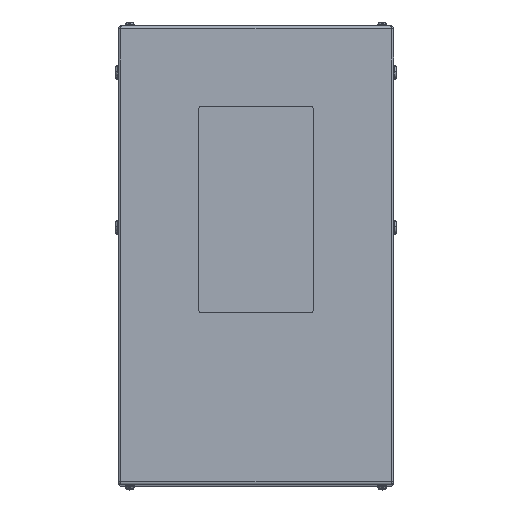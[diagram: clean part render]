
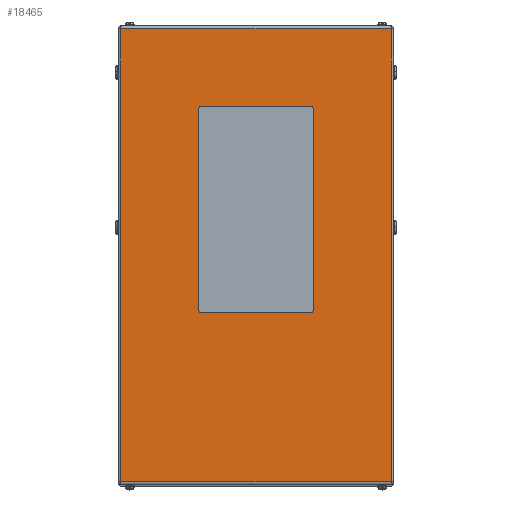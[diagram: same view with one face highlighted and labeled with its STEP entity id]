
A CAD part, top view. The second image highlights one B-rep face of the part: STEP entity #18465.
In plain terms, the highlighted planar face has unit normal (0, 0, 1).
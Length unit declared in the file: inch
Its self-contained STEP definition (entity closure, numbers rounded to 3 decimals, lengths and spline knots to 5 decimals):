
#48 = CARTESIAN_POINT ( 'NONE',  ( -4.75, 13., 30. ) ) ;
#343 = VECTOR ( 'NONE', #4926, 39.37008 ) ;
#572 = EDGE_CURVE ( 'NONE', #8508, #21209, #21410, .T. ) ;
#1418 = CARTESIAN_POINT ( 'NONE',  ( 4.75, 12.75, 30. ) ) ;
#1467 = ORIENTED_EDGE ( 'NONE', *, *, #6835, .F. ) ;
#1670 = LINE ( 'NONE', #7175, #15399 ) ;
#1812 = CARTESIAN_POINT ( 'NONE',  ( 11.8, 19.734, 30. ) ) ;
#1983 = CARTESIAN_POINT ( 'NONE',  ( 12., 19.734, 30. ) ) ;
#2105 = CARTESIAN_POINT ( 'NONE',  ( 5., 12.75, 30. ) ) ;
#2265 = DIRECTION ( 'NONE',  ( 0., 1., 0. ) ) ;
#2299 = LINE ( 'NONE', #22709, #23376 ) ;
#2385 = VERTEX_POINT ( 'NONE', #19564 ) ;
#2455 = VERTEX_POINT ( 'NONE', #21528 ) ;
#2592 = EDGE_CURVE ( 'NONE', #21968, #20963, #13183, .T. ) ;
#2740 = AXIS2_PLACEMENT_3D ( 'NONE', #1418, #5192, #14841 ) ;
#3356 = CARTESIAN_POINT ( 'NONE',  ( -11.8, 19.734, 30. ) ) ;
#3422 = CARTESIAN_POINT ( 'NONE',  ( -4.75, -5., 30. ) ) ;
#3722 = DIRECTION ( 'NONE',  ( 0., -1., 0. ) ) ;
#3750 = FACE_BOUND ( 'NONE', #3850, .T. ) ;
#3850 = EDGE_LOOP ( 'NONE', ( #15669, #12745, #6420, #20998, #10895, #1467, #18816, #11453 ) ) ;
#4032 = ORIENTED_EDGE ( 'NONE', *, *, #11173, .T. ) ;
#4111 = DIRECTION ( 'NONE',  ( 0., 0., -1. ) ) ;
#4356 = VECTOR ( 'NONE', #2265, 39.37008 ) ;
#4509 = AXIS2_PLACEMENT_3D ( 'NONE', #9292, #12956, #16996 ) ;
#4541 = EDGE_CURVE ( 'NONE', #5840, #11500, #5578, .T. ) ;
#4926 = DIRECTION ( 'NONE',  ( 0., 1., 0. ) ) ;
#5028 = DIRECTION ( 'NONE',  ( 0., 0., 1. ) ) ;
#5192 = DIRECTION ( 'NONE',  ( 0., 0., 1. ) ) ;
#5393 = EDGE_CURVE ( 'NONE', #2455, #6618, #2299, .T. ) ;
#5451 = CARTESIAN_POINT ( 'NONE',  ( -5., 12.75, 30. ) ) ;
#5578 = LINE ( 'NONE', #15325, #4356 ) ;
#5720 = FACE_OUTER_BOUND ( 'NONE', #15222, .T. ) ;
#5783 = CARTESIAN_POINT ( 'NONE',  ( -4.75, 12.75, 30. ) ) ;
#5840 = VERTEX_POINT ( 'NONE', #14463 ) ;
#5986 = DIRECTION ( 'NONE',  ( -1., 0., 0. ) ) ;
#6420 = ORIENTED_EDGE ( 'NONE', *, *, #10911, .F. ) ;
#6618 = VERTEX_POINT ( 'NONE', #48 ) ;
#6787 = CARTESIAN_POINT ( 'NONE',  ( -4.75, -4.75, 30. ) ) ;
#6835 = EDGE_CURVE ( 'NONE', #11500, #2455, #16017, .T. ) ;
#7057 = CARTESIAN_POINT ( 'NONE',  ( 11.8, 20., 30. ) ) ;
#7086 = EDGE_CURVE ( 'NONE', #12247, #22090, #10630, .T. ) ;
#7175 = CARTESIAN_POINT ( 'NONE',  ( -11.8, 20., 30. ) ) ;
#7296 = AXIS2_PLACEMENT_3D ( 'NONE', #11442, #4111, #15360 ) ;
#7729 = VECTOR ( 'NONE', #3722, 39.37008 ) ;
#8508 = VERTEX_POINT ( 'NONE', #19081 ) ;
#8628 = ORIENTED_EDGE ( 'NONE', *, *, #19339, .T. ) ;
#9091 = VERTEX_POINT ( 'NONE', #14126 ) ;
#9292 = CARTESIAN_POINT ( 'NONE',  ( 4.75, -4.75, 30. ) ) ;
#9358 = EDGE_CURVE ( 'NONE', #21209, #9091, #22120, .T. ) ;
#9601 = ORIENTED_EDGE ( 'NONE', *, *, #2592, .T. ) ;
#9853 = CARTESIAN_POINT ( 'NONE',  ( 11.8, -19.734, 30. ) ) ;
#10630 = LINE ( 'NONE', #14805, #12119 ) ;
#10826 = DIRECTION ( 'NONE',  ( 1., 0., 0. ) ) ;
#10895 = ORIENTED_EDGE ( 'NONE', *, *, #5393, .F. ) ;
#10911 = EDGE_CURVE ( 'NONE', #2385, #8508, #20574, .T. ) ;
#11173 = EDGE_CURVE ( 'NONE', #20963, #12247, #1670, .T. ) ;
#11442 = CARTESIAN_POINT ( 'NONE',  ( 12., 20., 30. ) ) ;
#11453 = ORIENTED_EDGE ( 'NONE', *, *, #18130, .F. ) ;
#11500 = VERTEX_POINT ( 'NONE', #2105 ) ;
#11698 = VECTOR ( 'NONE', #10826, 39.37008 ) ;
#11987 = DIRECTION ( 'NONE',  ( 1., 0., 0. ) ) ;
#12119 = VECTOR ( 'NONE', #22277, 39.37008 ) ;
#12247 = VERTEX_POINT ( 'NONE', #15919 ) ;
#12745 = ORIENTED_EDGE ( 'NONE', *, *, #572, .F. ) ;
#12956 = DIRECTION ( 'NONE',  ( 0., 0., 1. ) ) ;
#13154 = PLANE ( 'NONE',  #7296 ) ;
#13183 = LINE ( 'NONE', #1983, #17654 ) ;
#13491 = CIRCLE ( 'NONE', #4509, 0.25 ) ;
#14126 = CARTESIAN_POINT ( 'NONE',  ( 4.75, -5., 30. ) ) ;
#14463 = CARTESIAN_POINT ( 'NONE',  ( 5., -4.75, 30. ) ) ;
#14606 = EDGE_CURVE ( 'NONE', #6618, #2385, #21009, .T. ) ;
#14805 = CARTESIAN_POINT ( 'NONE',  ( 11.8, -19.734, 30. ) ) ;
#14841 = DIRECTION ( 'NONE',  ( -1., 0., 0. ) ) ;
#15222 = EDGE_LOOP ( 'NONE', ( #4032, #17283, #8628, #9601 ) ) ;
#15325 = CARTESIAN_POINT ( 'NONE',  ( 5., 12.75, 30. ) ) ;
#15360 = DIRECTION ( 'NONE',  ( -1., 0., 0. ) ) ;
#15399 = VECTOR ( 'NONE', #24077, 39.37008 ) ;
#15669 = ORIENTED_EDGE ( 'NONE', *, *, #9358, .F. ) ;
#15919 = CARTESIAN_POINT ( 'NONE',  ( -11.8, -19.734, 30. ) ) ;
#15972 = AXIS2_PLACEMENT_3D ( 'NONE', #5783, #17021, #21037 ) ;
#16017 = CIRCLE ( 'NONE', #2740, 0.25 ) ;
#16298 = LINE ( 'NONE', #7057, #343 ) ;
#16996 = DIRECTION ( 'NONE',  ( 1., 0., 0. ) ) ;
#17021 = DIRECTION ( 'NONE',  ( 0., 0., 1. ) ) ;
#17112 = DIRECTION ( 'NONE',  ( -1., 0., 0. ) ) ;
#17283 = ORIENTED_EDGE ( 'NONE', *, *, #7086, .T. ) ;
#17654 = VECTOR ( 'NONE', #17112, 39.37008 ) ;
#18130 = EDGE_CURVE ( 'NONE', #9091, #5840, #13491, .T. ) ;
#18465 = ADVANCED_FACE ( 'NONE', ( #3750, #5720 ), #13154, .F. ) ;
#18816 = ORIENTED_EDGE ( 'NONE', *, *, #4541, .F. ) ;
#19081 = CARTESIAN_POINT ( 'NONE',  ( -5., -4.75, 30. ) ) ;
#19339 = EDGE_CURVE ( 'NONE', #22090, #21968, #16298, .T. ) ;
#19506 = CARTESIAN_POINT ( 'NONE',  ( -4.75, -5., 30. ) ) ;
#19564 = CARTESIAN_POINT ( 'NONE',  ( -5., 12.75, 30. ) ) ;
#19842 = AXIS2_PLACEMENT_3D ( 'NONE', #6787, #5028, #11987 ) ;
#20574 = LINE ( 'NONE', #5451, #7729 ) ;
#20963 = VERTEX_POINT ( 'NONE', #3356 ) ;
#20998 = ORIENTED_EDGE ( 'NONE', *, *, #14606, .F. ) ;
#21009 = CIRCLE ( 'NONE', #15972, 0.25 ) ;
#21037 = DIRECTION ( 'NONE',  ( 1., 0., 0. ) ) ;
#21209 = VERTEX_POINT ( 'NONE', #19506 ) ;
#21410 = CIRCLE ( 'NONE', #19842, 0.25 ) ;
#21528 = CARTESIAN_POINT ( 'NONE',  ( 4.75, 13., 30. ) ) ;
#21968 = VERTEX_POINT ( 'NONE', #1812 ) ;
#22090 = VERTEX_POINT ( 'NONE', #9853 ) ;
#22120 = LINE ( 'NONE', #3422, #11698 ) ;
#22277 = DIRECTION ( 'NONE',  ( 1., 0., 0. ) ) ;
#22709 = CARTESIAN_POINT ( 'NONE',  ( -4.75, 13., 30. ) ) ;
#23376 = VECTOR ( 'NONE', #5986, 39.37008 ) ;
#24077 = DIRECTION ( 'NONE',  ( 0., -1., 0. ) ) ;
